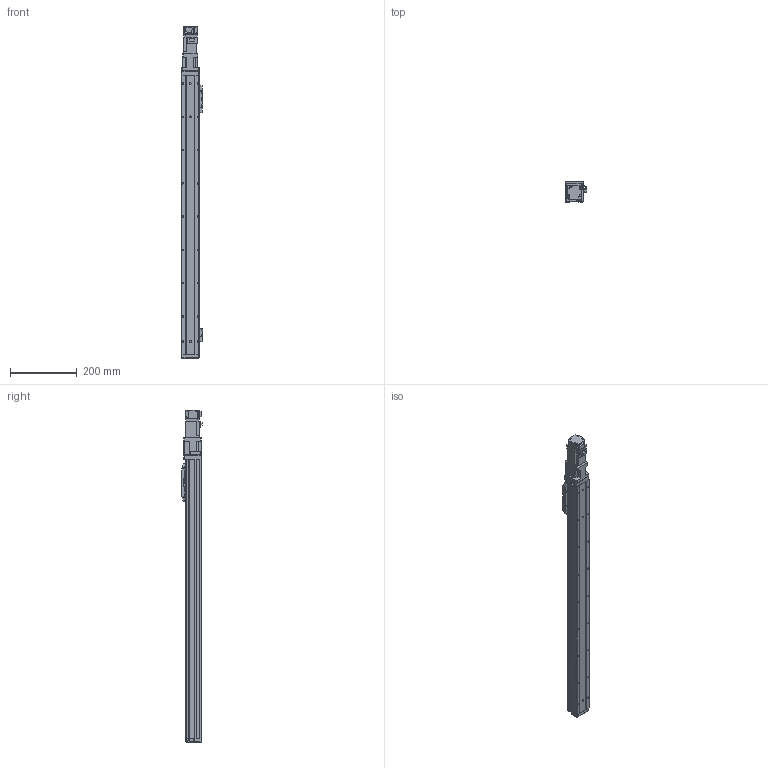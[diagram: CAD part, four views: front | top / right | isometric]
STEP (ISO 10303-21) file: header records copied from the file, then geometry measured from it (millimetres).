
FILE_DESCRIPTION (( 'STEP AP214' ), '1' );
FILE_NAME ('N_GRH5-700-BC-M10.step', '2025-03-14T09:34:19', ( '' ), ( '' ), 'SwSTEP 2.0', 'SolidWorks 2016', '' );
FILE_SCHEMA (( 'AUTOMOTIVE_DESIGN' ));
Length unit declared in the file: millimetre
Products named in the file (5): N_GRH5-BC-008^N_GRH5-700-BC-M10; N_GRH5-GY-004^N_GRH5-700-BC-M10; HF-KP13_100W_Motor^N_GRH5-700-BC-M10; N_GRH5-GY-011^N_GRH5-700-BC-M10; N_GRH5-700-BC-M10
Assembly tree (4 placements, depth 2):
  N_GRH5-700-BC-M10
    N_GRH5-GY-011^N_GRH5-700-BC-M10
    N_GRH5-GY-004^N_GRH5-700-BC-M10
    N_GRH5-BC-008^N_GRH5-700-BC-M10
    HF-KP13_100W_Motor^N_GRH5-700-BC-M10
Bounding box: 64.05 x 60.7 x 997.9 mm (x, y, z)
Volume: 1571484.6 mm3; surface area: 425392.1 mm2
Topology: 4 solids, 5 shells, 954 faces, 2462 edges, 1567 vertices
Faces by surface type: plane 558, cylinder 336, cone 58, sphere 2
Entity records: 35598 total; most frequent: DIRECTION 5045, CARTESIAN_POINT 5026, ORIENTED_EDGE 4852, EDGE_CURVE 2426, VECTOR 1693, LINE 1693, AXIS2_PLACEMENT_3D 1676, VERTEX_POINT 1565
